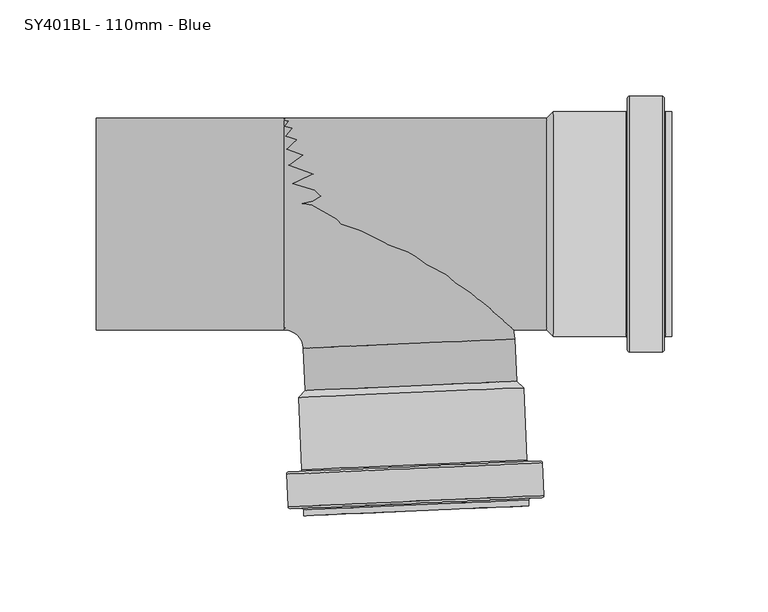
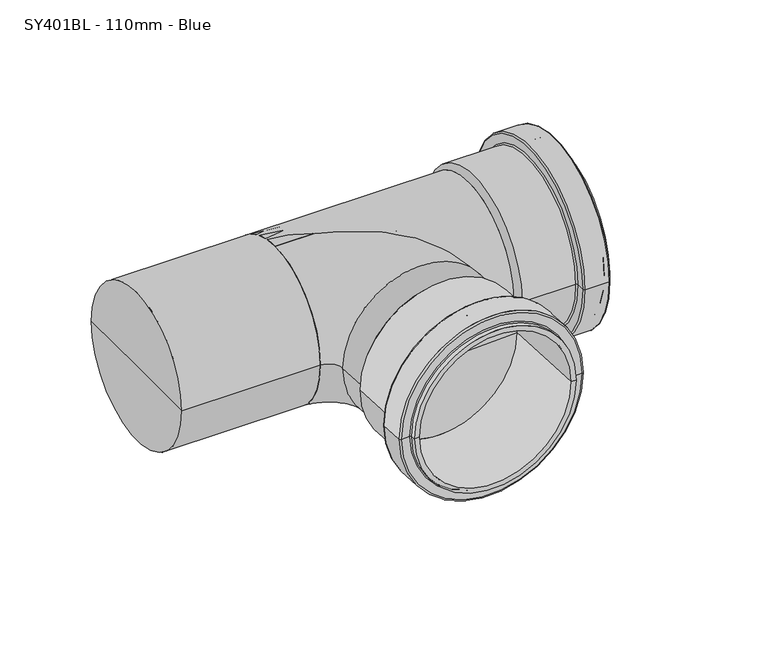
"""IFC4 building model written with IfcOpenShell, lengths in millimetres: pipe fitting geometry, MarleyPlumbingAndDrainage_PipeFitting_dBlueEqualBranch87-5 : SY401BL - 110mm - Blue."""

from ifc_helpers import new_model, si_unit, point, frame, origin, place, context, project, spatial, polyline, circle_curve, ellipse_curve, trimmed, source, transform, mapped, element, save
from ifc_brep_helpers import plane_surface, cylinder_surface, revolved_surface, advanced_brep


def sy401bl_110mm_blue_66424996(model_context):
    return source(origin(), model_context, "Body", "AdvancedBrep", [
        advanced_brep(
        [(-51.9352631, -151.6336693, 0.0), (64.9533788, -146.5302009, 0.0), (64.8228041, -143.5395471, 0.0), (-52.0658379, -148.6430155, 0.0), (-48.4385943, -151.4810014, 0.0), (61.45671, -146.6828688, 0.0), (-51.1211867, -90.0395358, 0.0), (58.7741177, -85.2414032, 0.0), (3.8264655, -87.6404695, 0.0), (-54.6178554, -90.1922036, 0.0), (62.2707865, -85.0887353, 0.0), (58.6214499, -81.7447344, 0.0), (-51.2738545, -86.542867, 0.0), (-52.9810053, -127.6822358, 0.0), (63.9076367, -122.5787675, 0.0), (-53.9118334, -128.6980564, 0.0), (64.9234573, -123.5095956, 0.0), (-59.9505809, -128.9617138, 0.0), (70.9622047, -123.2459382, 0.0), (-60.8880934, -129.9848292, 0.0), (71.9853201, -124.1834507, 0.0), (-60.1476621, -146.9434937, 0.0), (72.7257514, -141.1421152, 0.0), (-59.0591887, -147.9408958, 0.0), (71.7283493, -142.2305886, 0.0), (-53.1152798, -147.6813792, 0.0), (65.7844404, -142.4901053, 0.0), (3.6737977, -84.1438007, 0.0)],
        [
            (0, 1, circle_curve(frame((6.5090579, -149.0819351, 0.0), z_axis=(-0.043619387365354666, 0.999048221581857, 0.0), x_axis=(0.999048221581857, 0.043619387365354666, 0.0)), 58.5)),
            (1, 2),
            (2, 3, circle_curve(frame((6.3784831, -146.0912813, 0.0), z_axis=(0.043619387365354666, -0.999048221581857, 0.0), x_axis=(0.999048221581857, 0.043619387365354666, 0.0)), 58.5)),
            (3, 0),
            (1, 0, circle_curve(frame((6.5090579, -149.0819351, 0.0), z_axis=(-0.043619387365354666, 0.999048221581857, 0.0), x_axis=(0.999048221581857, 0.043619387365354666, 0.0)), 58.5)),
            (3, 2, circle_curve(frame((6.3784831, -146.0912813, 0.0), z_axis=(0.043619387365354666, -0.999048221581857, 0.0), x_axis=(0.999048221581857, 0.043619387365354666, 0.0)), 58.5)),
            (4, 5, circle_curve(frame((6.5090579, -149.0819351, 0.0), z_axis=(-0.043619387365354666, 0.999048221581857, 0.0), x_axis=(0.999048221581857, 0.043619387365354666, 0.0)), 55.0)),
            (5, 1),
            (0, 4),
            (5, 4, circle_curve(frame((6.5090579, -149.0819351, 0.0), z_axis=(-0.043619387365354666, 0.999048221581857, 0.0), x_axis=(0.999048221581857, 0.043619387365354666, 0.0)), 55.0)),
            (6, 7, circle_curve(frame((3.8264655, -87.6404695, 0.0), z_axis=(-0.043619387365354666, 0.999048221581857, 0.0), x_axis=(0.999048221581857, 0.043619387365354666, 0.0)), 55.0)),
            (7, 5),
            (4, 6),
            (7, 6, circle_curve(frame((3.8264655, -87.6404695, 0.0), z_axis=(-0.043619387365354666, 0.999048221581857, 0.0), x_axis=(0.999048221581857, 0.043619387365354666, 0.0)), 55.0)),
            (8, 7),
            (6, 8),
            (9, 10, circle_curve(frame((3.8264655, -87.6404695, 0.0), z_axis=(-0.043619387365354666, 0.999048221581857, 0.0), x_axis=(0.999048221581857, 0.043619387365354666, 0.0)), 58.5)),
            (10, 11),
            (11, 12, circle_curve(frame((3.6737977, -84.1438007, 0.0), z_axis=(0.043619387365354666, -0.999048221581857, 0.0), x_axis=(0.999048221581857, 0.043619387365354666, 0.0)), 55.0)),
            (12, 9),
            (10, 9, circle_curve(frame((3.8264655, -87.6404695, 0.0), z_axis=(-0.043619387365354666, 0.999048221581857, 0.0), x_axis=(0.999048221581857, 0.043619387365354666, 0.0)), 58.5)),
            (12, 11, circle_curve(frame((3.6737977, -84.1438007, 0.0), z_axis=(0.043619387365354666, -0.999048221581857, 0.0), x_axis=(0.999048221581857, 0.043619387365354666, 0.0)), 55.0)),
            (13, 14, circle_curve(frame((5.4633157, -125.1305016, 0.0), z_axis=(-0.043619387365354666, 0.999048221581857, 0.0), x_axis=(0.999048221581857, 0.043619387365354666, 0.0)), 58.5)),
            (14, 10),
            (9, 13),
            (14, 13, circle_curve(frame((5.4633157, -125.1305016, 0.0), z_axis=(-0.043619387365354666, 0.999048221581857, 0.0), x_axis=(0.999048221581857, 0.043619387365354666, 0.0)), 58.5)),
            (15, 16, circle_curve(frame((5.5058119, -126.103826, 0.0), z_axis=(-0.043619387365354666, 0.999048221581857, 0.0), x_axis=(0.999048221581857, 0.043619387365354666, 0.0)), 59.4742516)),
            (16, 14, circle_curve(frame((64.880961, -122.5362712, 0.0), z_axis=(0.0, 0.0, -1.0), x_axis=(-0.04361938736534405, 0.9990482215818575, 0.0)), 0.9742516)),
            (13, 15, circle_curve(frame((-53.9543296, -127.7247321, 0.0), z_axis=(0.0, 0.0, -1.0), x_axis=(-0.04361938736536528, 0.9990482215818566, 0.0)), 0.9742516)),
            (16, 15, circle_curve(frame((5.5058119, -126.103826, 0.0), z_axis=(-0.043619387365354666, 0.999048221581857, 0.0), x_axis=(0.999048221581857, 0.043619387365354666, 0.0)), 59.4742516)),
            (17, 18, circle_curve(frame((5.5058119, -126.103826, 0.0), z_axis=(-0.043619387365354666, 0.999048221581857, 0.0), x_axis=(0.999048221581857, 0.043619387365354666, 0.0)), 65.5187521)),
            (18, 16),
            (15, 17),
            (18, 17, circle_curve(frame((5.5058119, -126.103826, 0.0), z_axis=(-0.043619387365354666, 0.999048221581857, 0.0), x_axis=(0.999048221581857, 0.043619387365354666, 0.0)), 65.5187521)),
            (19, 20, circle_curve(frame((5.5486134, -127.0841399, 0.0), z_axis=(-0.043619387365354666, 0.999048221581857, 0.0), x_axis=(0.999048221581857, 0.043619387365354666, 0.0)), 66.5)),
            (20, 18, circle_curve(frame((71.0050062, -124.2262521, 0.0), z_axis=(0.0, 0.0, 1.0), x_axis=(-0.04361938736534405, 0.9990482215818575, 0.0)), 0.9812479)),
            (17, 19, circle_curve(frame((-59.9077794, -129.9420278, 0.0), z_axis=(0.0, 0.0, 1.0), x_axis=(-0.04361938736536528, 0.9990482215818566, 0.0)), 0.9812479)),
            (20, 19, circle_curve(frame((5.5486134, -127.0841399, 0.0), z_axis=(-0.043619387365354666, 0.999048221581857, 0.0), x_axis=(0.999048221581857, 0.043619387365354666, 0.0)), 66.5)),
            (21, 22, circle_curve(frame((6.2890447, -144.0428045, 0.0), z_axis=(-0.043619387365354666, 0.999048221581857, 0.0), x_axis=(0.999048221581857, 0.043619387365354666, 0.0)), 66.5)),
            (22, 20),
            (19, 21),
            (22, 21, circle_curve(frame((6.2890447, -144.0428045, 0.0), z_axis=(-0.043619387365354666, 0.999048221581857, 0.0), x_axis=(0.999048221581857, 0.043619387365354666, 0.0)), 66.5)),
            (23, 24, circle_curve(frame((6.3345803, -145.0857422, 0.0), z_axis=(-0.043619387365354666, 0.999048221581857, 0.0), x_axis=(0.999048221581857, 0.043619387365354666, 0.0)), 65.4560687)),
            (24, 22, circle_curve(frame((71.6828137, -141.1876509, 0.0), z_axis=(0.0, 0.0, 1.0), x_axis=(-0.04361938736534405, 0.9990482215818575, 0.0)), 1.0439313)),
            (21, 23, circle_curve(frame((-59.1047243, -146.8979581, 0.0), z_axis=(0.0, 0.0, 1.0), x_axis=(-0.04361938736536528, 0.9990482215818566, 0.0)), 1.0439313)),
            (24, 23, circle_curve(frame((6.3345803, -145.0857422, 0.0), z_axis=(-0.043619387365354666, 0.999048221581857, 0.0), x_axis=(0.999048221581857, 0.043619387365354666, 0.0)), 65.4560687)),
            (25, 26, circle_curve(frame((6.3345803, -145.0857422, 0.0), z_axis=(-0.043619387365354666, 0.999048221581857, 0.0), x_axis=(0.999048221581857, 0.043619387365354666, 0.0)), 59.5064971)),
            (26, 24),
            (23, 25),
            (26, 25, circle_curve(frame((6.3345803, -145.0857422, 0.0), z_axis=(-0.043619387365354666, 0.999048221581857, 0.0), x_axis=(0.999048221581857, 0.043619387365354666, 0.0)), 59.5064971)),
            (2, 26, circle_curve(frame((65.8283432, -143.4956444, 0.0), z_axis=(0.0, 0.0, -1.0), x_axis=(-0.04361938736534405, 0.9990482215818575, 0.0)), 1.0064971)),
            (25, 3, circle_curve(frame((-53.071377, -148.6869183, 0.0), z_axis=(0.0, 0.0, -1.0), x_axis=(-0.04361938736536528, 0.9990482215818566, 0.0)), 1.0064971)),
            (11, 27),
            (27, 12),
        ],
        [
            cylinder_surface(frame((8.2538334, -189.043864, 0.0), z_axis=(0.043619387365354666, -0.999048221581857, 0.0), x_axis=(0.999048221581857, 0.043619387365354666, 0.0)), 58.5),
            plane_surface(frame((6.5090579, -149.0819351, 0.0), z_axis=(0.043619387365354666, -0.999048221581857, 0.0), x_axis=(0.999048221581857, 0.043619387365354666, 0.0))),
            revolved_surface(polyline([(61.456710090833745, -146.68286879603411, 0.0), (58.774117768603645, -85.24140318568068, 0.0)]), (8.2538334, -189.043864, 0.0), (0.043619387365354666, -0.999048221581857, 0.0)),
            plane_surface(frame((3.8264655, -87.6404695, 0.0), z_axis=(0.043619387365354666, -0.999048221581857, 0.0), x_axis=(0.999048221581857, 0.043619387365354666, 0.0))),
            revolved_surface(polyline([(58.6214499, -81.7447344, 0.0), (62.2707865, -85.0887353, 0.0)]), (8.2538334, -189.043864, 0.0), (0.043619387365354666, -0.999048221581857, 0.0)),
            revolved_surface(trimmed(ellipse_curve(frame((64.880961, -122.5362712, 0.0), z_axis=(0.0, 0.0, 1.0), x_axis=(-0.04361938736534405, 0.9990482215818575, 0.0)), 0.9742516, 0.9742516), [point((63.9076367, -122.5787675, 0.0))], [point((64.9234573, -123.5095956, 0.0))], True, "CARTESIAN"), (8.2538334, -189.043864, 0.0), (0.043619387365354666, -0.999048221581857, 0.0)),
            plane_surface(frame((5.5058119, -126.103826, 0.0), z_axis=(-0.043619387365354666, 0.999048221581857, 0.0), x_axis=(0.999048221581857, 0.043619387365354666, 0.0))),
            revolved_surface(trimmed(ellipse_curve(frame((71.0050062, -124.2262521, 0.0), z_axis=(0.0, 0.0, -1.0), x_axis=(-0.04361938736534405, 0.9990482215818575, 0.0)), 0.9812479, 0.9812479), [point((70.9622047, -123.2459382, 0.0))], [point((71.9853201, -124.1834507, 0.0))], True, "CARTESIAN"), (8.2538334, -189.043864, 0.0), (0.043619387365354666, -0.999048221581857, 0.0)),
            cylinder_surface(frame((8.2538334, -189.043864, 0.0), z_axis=(0.043619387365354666, -0.999048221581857, 0.0), x_axis=(0.999048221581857, 0.043619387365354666, 0.0)), 66.5),
            revolved_surface(trimmed(ellipse_curve(frame((71.6828137, -141.1876509, 0.0), z_axis=(0.0, 0.0, -1.0), x_axis=(-0.04361938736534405, 0.9990482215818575, 0.0)), 1.0439313, 1.0439313), [point((72.7257514, -141.1421152, 0.0))], [point((71.7283493, -142.2305886, 0.0))], True, "CARTESIAN"), (8.2538334, -189.043864, 0.0), (0.043619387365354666, -0.999048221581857, 0.0)),
            plane_surface(frame((6.3345803, -145.0857422, 0.0), z_axis=(0.043619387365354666, -0.999048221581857, 0.0), x_axis=(0.999048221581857, 0.043619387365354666, 0.0))),
            revolved_surface(trimmed(ellipse_curve(frame((65.8283432, -143.4956444, 0.0), z_axis=(0.0, 0.0, 1.0), x_axis=(-0.04361938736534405, 0.9990482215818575, 0.0)), 1.0064971, 1.0064971), [point((65.7844404, -142.4901053, 0.0))], [point((64.8228041, -143.5395471, 0.0))], True, "CARTESIAN"), (8.2538334, -189.043864, 0.0), (0.043619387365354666, -0.999048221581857, 0.0)),
            plane_surface(frame((3.6737977, -84.1438007, 0.0), z_axis=(-0.043619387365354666, 0.999048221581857, 0.0), x_axis=(0.999048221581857, 0.043619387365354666, 0.0))),
        ],
        [
            (0, [[1, 2, 3, 4]]),
            (0, [[5, -4, 6, -2]]),
            (1, [[7, 8, -1, 9]]),
            (1, [[10, -9, -5, -8]]),
            (2, [[11, 12, -7, 13]]),
            (2, [[14, -13, -10, -12]]),
            (3, [[15, -11, 16]]),
            (3, [[-16, -14, -15]]),
            (4, [[17, 18, 19, 20]]),
            (4, [[21, -20, 22, -18]]),
            (0, [[23, 24, -17, 25]]),
            (0, [[26, -25, -21, -24]]),
            (5, [[27, 28, -23, 29]]),
            (5, [[30, -29, -26, -28]]),
            (6, [[31, 32, -27, 33]]),
            (6, [[34, -33, -30, -32]]),
            (7, [[35, 36, -31, 37]]),
            (7, [[38, -37, -34, -36]]),
            (8, [[39, 40, -35, 41]]),
            (8, [[42, -41, -38, -40]]),
            (9, [[43, 44, -39, 45]]),
            (9, [[46, -45, -42, -44]]),
            (10, [[47, 48, -43, 49]]),
            (10, [[50, -49, -46, -48]]),
            (11, [[-3, 51, -47, 52]]),
            (11, [[-6, -52, -50, -51]]),
            (12, [[-19, 53, 54]]),
            (12, [[-22, -54, -53]]),
        ],
    ),
        advanced_brep(
        [(139.2, 58.5, 0.0), (139.2, -58.5, 0.0), (136.2064971, -58.5, 0.0), (136.2064971, 58.5, 0.0), (139.2, 55.0, 0.0), (139.2, -55.0, 0.0), (77.7, 55.0, 0.0), (77.7, -55.0, 0.0), (77.7, 0.0, 0.0), (77.7, 58.5, 0.0), (77.7, -58.5, 0.0), (74.2, -55.0, 0.0), (74.2, 55.0, 0.0), (115.2257484, 58.5, 0.0), (115.2257484, -58.5, 0.0), (116.2, 59.4742516, 0.0), (116.2, -59.4742516, 0.0), (116.2, 65.5187521, 0.0), (116.2, -65.5187521, 0.0), (117.1812479, 66.5, 0.0), (117.1812479, -66.5, 0.0), (134.1560687, 66.5, 0.0), (134.1560687, -66.5, 0.0), (135.2, 65.4560687, 0.0), (135.2, -65.4560687, 0.0), (135.2, 59.5064971, 0.0), (135.2, -59.5064971, 0.0), (74.2, 0.0, 0.0)],
        [
            (0, 1, circle_curve(frame((139.2, 0.0, 0.0), z_axis=(-1.0, 0.0, 0.0), x_axis=(0.0, -1.0, 0.0)), 58.5)),
            (1, 2),
            (2, 3, circle_curve(frame((136.2064971, 0.0, 0.0), z_axis=(1.0, 0.0, 0.0), x_axis=(0.0, -1.0, 0.0)), 58.5)),
            (3, 0),
            (1, 0, circle_curve(frame((139.2, 0.0, 0.0), z_axis=(-1.0, 0.0, 0.0), x_axis=(0.0, -1.0, 0.0)), 58.5)),
            (3, 2, circle_curve(frame((136.2064971, 0.0, 0.0), z_axis=(1.0, 0.0, 0.0), x_axis=(0.0, -1.0, 0.0)), 58.5)),
            (4, 5, circle_curve(frame((139.2, 0.0, 0.0), z_axis=(-1.0, 0.0, 0.0), x_axis=(0.0, -1.0, 0.0)), 55.0)),
            (5, 1),
            (0, 4),
            (5, 4, circle_curve(frame((139.2, 0.0, 0.0), z_axis=(-1.0, 0.0, 0.0), x_axis=(0.0, -1.0, 0.0)), 55.0)),
            (6, 7, circle_curve(frame((77.7, 0.0, 0.0), z_axis=(-1.0, 0.0, 0.0), x_axis=(0.0, -1.0, 0.0)), 55.0)),
            (7, 5),
            (4, 6),
            (7, 6, circle_curve(frame((77.7, 0.0, 0.0), z_axis=(-1.0, 0.0, 0.0), x_axis=(0.0, -1.0, 0.0)), 55.0)),
            (8, 7),
            (6, 8),
            (9, 10, circle_curve(frame((77.7, 0.0, 0.0), z_axis=(-1.0, 0.0, 0.0), x_axis=(0.0, -1.0, 0.0)), 58.5)),
            (10, 11),
            (11, 12, circle_curve(frame((74.2, 0.0, 0.0), z_axis=(1.0, 0.0, 0.0), x_axis=(0.0, -1.0, 0.0)), 55.0)),
            (12, 9),
            (10, 9, circle_curve(frame((77.7, 0.0, 0.0), z_axis=(-1.0, 0.0, 0.0), x_axis=(0.0, -1.0, 0.0)), 58.5)),
            (12, 11, circle_curve(frame((74.2, 0.0, 0.0), z_axis=(1.0, 0.0, 0.0), x_axis=(0.0, -1.0, 0.0)), 55.0)),
            (13, 14, circle_curve(frame((115.2257484, 0.0, 0.0), z_axis=(-1.0, 0.0, 0.0), x_axis=(0.0, -1.0, 0.0)), 58.5)),
            (14, 10),
            (9, 13),
            (14, 13, circle_curve(frame((115.2257484, 0.0, 0.0), z_axis=(-1.0, 0.0, 0.0), x_axis=(0.0, -1.0, 0.0)), 58.5)),
            (15, 16, circle_curve(frame((116.2, 0.0, 0.0), z_axis=(-1.0, 0.0, 0.0), x_axis=(0.0, -1.0, 0.0)), 59.4742516)),
            (16, 14, circle_curve(frame((115.2257484, -59.4742516, 0.0), z_axis=(0.0, 0.0, 1.0), x_axis=(-1.0, 0.0, 0.0)), 0.9742516)),
            (13, 15, circle_curve(frame((115.2257484, 59.4742516, 0.0), z_axis=(0.0, 0.0, 1.0), x_axis=(-1.0, 0.0, 0.0)), 0.9742516)),
            (16, 15, circle_curve(frame((116.2, 0.0, 0.0), z_axis=(-1.0, 0.0, 0.0), x_axis=(0.0, -1.0, 0.0)), 59.4742516)),
            (17, 18, circle_curve(frame((116.2, 0.0, 0.0), z_axis=(-1.0, 0.0, 0.0), x_axis=(0.0, -1.0, 0.0)), 65.5187521)),
            (18, 16),
            (15, 17),
            (18, 17, circle_curve(frame((116.2, 0.0, 0.0), z_axis=(-1.0, 0.0, 0.0), x_axis=(0.0, -1.0, 0.0)), 65.5187521)),
            (19, 20, circle_curve(frame((117.1812479, 0.0, 0.0), z_axis=(-1.0, 0.0, 0.0), x_axis=(0.0, -1.0, 0.0)), 66.5)),
            (20, 18, circle_curve(frame((117.1812479, -65.5187521, 0.0), z_axis=(0.0, 0.0, -1.0), x_axis=(-1.0, 0.0, 0.0)), 0.9812479)),
            (17, 19, circle_curve(frame((117.1812479, 65.5187521, 0.0), z_axis=(0.0, 0.0, -1.0), x_axis=(-1.0, 0.0, 0.0)), 0.9812479)),
            (20, 19, circle_curve(frame((117.1812479, 0.0, 0.0), z_axis=(-1.0, 0.0, 0.0), x_axis=(0.0, -1.0, 0.0)), 66.5)),
            (21, 22, circle_curve(frame((134.1560687, 0.0, 0.0), z_axis=(-1.0, 0.0, 0.0), x_axis=(0.0, -1.0, 0.0)), 66.5)),
            (22, 20),
            (19, 21),
            (22, 21, circle_curve(frame((134.1560687, 0.0, 0.0), z_axis=(-1.0, 0.0, 0.0), x_axis=(0.0, -1.0, 0.0)), 66.5)),
            (23, 24, circle_curve(frame((135.2, 0.0, 0.0), z_axis=(-1.0, 0.0, 0.0), x_axis=(0.0, -1.0, 0.0)), 65.4560687)),
            (24, 22, circle_curve(frame((134.1560687, -65.4560687, 0.0), z_axis=(0.0, 0.0, -1.0), x_axis=(-1.0, 0.0, 0.0)), 1.0439313)),
            (21, 23, circle_curve(frame((134.1560687, 65.4560687, 0.0), z_axis=(0.0, 0.0, -1.0), x_axis=(-1.0, 0.0, 0.0)), 1.0439313)),
            (24, 23, circle_curve(frame((135.2, 0.0, 0.0), z_axis=(-1.0, 0.0, 0.0), x_axis=(0.0, -1.0, 0.0)), 65.4560687)),
            (25, 26, circle_curve(frame((135.2, 0.0, 0.0), z_axis=(-1.0, 0.0, 0.0), x_axis=(0.0, -1.0, 0.0)), 59.5064971)),
            (26, 24),
            (23, 25),
            (26, 25, circle_curve(frame((135.2, 0.0, 0.0), z_axis=(-1.0, 0.0, 0.0), x_axis=(0.0, -1.0, 0.0)), 59.5064971)),
            (2, 26, circle_curve(frame((136.2064971, -59.5064971, 0.0), z_axis=(0.0, 0.0, 1.0), x_axis=(-1.0, 0.0, 0.0)), 1.0064971)),
            (25, 3, circle_curve(frame((136.2064971, 59.5064971, 0.0), z_axis=(0.0, 0.0, 1.0), x_axis=(-1.0, 0.0, 0.0)), 1.0064971)),
            (11, 27),
            (27, 12),
        ],
        [
            cylinder_surface(frame((179.2, 0.0, 0.0), z_axis=(1.0, 0.0, 0.0), x_axis=(0.0, -1.0, 0.0)), 58.5),
            plane_surface(frame((139.2, 0.0, 0.0), z_axis=(1.0, 0.0, 0.0), x_axis=(0.0, -1.0, 0.0))),
            revolved_surface(polyline([(139.2, -55.0, 0.0), (77.7, -55.0, 0.0)]), (179.2, 0.0, 0.0), (1.0, 0.0, 0.0)),
            plane_surface(frame((77.7, 0.0, 0.0), z_axis=(1.0, 0.0, 0.0), x_axis=(0.0, -1.0, 0.0))),
            revolved_surface(polyline([(74.2, -55.0, 0.0), (77.7, -58.5, 0.0)]), (179.2, 0.0, 0.0), (1.0, 0.0, 0.0)),
            revolved_surface(trimmed(ellipse_curve(frame((115.2257484, -59.4742516, 0.0), z_axis=(0.0, 0.0, -1.0), x_axis=(-1.0, 0.0, 0.0)), 0.9742516, 0.9742516), [point((115.2257484, -58.5, 0.0))], [point((116.2, -59.4742516, 0.0))], True, "CARTESIAN"), (179.2, 0.0, 0.0), (1.0, 0.0, 0.0)),
            plane_surface(frame((116.2, 0.0, 0.0), z_axis=(-1.0, 0.0, 0.0), x_axis=(0.0, -1.0, 0.0))),
            revolved_surface(trimmed(ellipse_curve(frame((117.1812479, -65.5187521, 0.0), z_axis=(0.0, 0.0, 1.0), x_axis=(-1.0, 0.0, 0.0)), 0.9812479, 0.9812479), [point((116.2, -65.5187521, 0.0))], [point((117.1812479, -66.5, 0.0))], True, "CARTESIAN"), (179.2, 0.0, 0.0), (1.0, 0.0, 0.0)),
            cylinder_surface(frame((179.2, 0.0, 0.0), z_axis=(1.0, 0.0, 0.0), x_axis=(0.0, -1.0, 0.0)), 66.5),
            revolved_surface(trimmed(ellipse_curve(frame((134.1560687, -65.4560687, 0.0), z_axis=(0.0, 0.0, 1.0), x_axis=(-1.0, 0.0, 0.0)), 1.0439313, 1.0439313), [point((134.1560687, -66.5, 0.0))], [point((135.2, -65.4560687, 0.0))], True, "CARTESIAN"), (179.2, 0.0, 0.0), (1.0, 0.0, 0.0)),
            plane_surface(frame((135.2, 0.0, 0.0), z_axis=(1.0, 0.0, 0.0), x_axis=(0.0, -1.0, 0.0))),
            revolved_surface(trimmed(ellipse_curve(frame((136.2064971, -59.5064971, 0.0), z_axis=(0.0, 0.0, -1.0), x_axis=(-1.0, 0.0, 0.0)), 1.0064971, 1.0064971), [point((135.2, -59.5064971, 0.0))], [point((136.2064971, -58.5, 0.0))], True, "CARTESIAN"), (179.2, 0.0, 0.0), (1.0, 0.0, 0.0)),
            plane_surface(frame((74.2, 0.0, 0.0), z_axis=(-1.0, 0.0, 0.0), x_axis=(0.0, -1.0, 0.0))),
        ],
        [
            (0, [[1, 2, 3, 4]]),
            (0, [[5, -4, 6, -2]]),
            (1, [[7, 8, -1, 9]]),
            (1, [[10, -9, -5, -8]]),
            (2, [[11, 12, -7, 13]]),
            (2, [[14, -13, -10, -12]]),
            (3, [[15, -11, 16]]),
            (3, [[-16, -14, -15]]),
            (4, [[17, 18, 19, 20]]),
            (4, [[21, -20, 22, -18]]),
            (0, [[23, 24, -17, 25]]),
            (0, [[26, -25, -21, -24]]),
            (5, [[27, 28, -23, 29]]),
            (5, [[30, -29, -26, -28]]),
            (6, [[31, 32, -27, 33]]),
            (6, [[34, -33, -30, -32]]),
            (7, [[35, 36, -31, 37]]),
            (7, [[38, -37, -34, -36]]),
            (8, [[39, 40, -35, 41]]),
            (8, [[42, -41, -38, -40]]),
            (9, [[43, 44, -39, 45]]),
            (9, [[46, -45, -42, -44]]),
            (10, [[47, 48, -43, 49]]),
            (10, [[50, -49, -46, -48]]),
            (11, [[-3, 51, -47, 52]]),
            (11, [[-6, -52, -50, -51]]),
            (12, [[-19, 53, 54]]),
            (12, [[-22, -54, -53]]),
        ],
    ),
        advanced_brep(
        [(-62.2239632, -55.0, 0.0), (-62.2239632, 55.0, 0.0), (57.6618233, -59.7656735, 0.0), (-52.233481, -64.5638061, 0.0), (-51.2738545, -86.542867, 0.0), (58.6214499, -81.7447344, 0.0)],
        [
            (0, 1, circle_curve(frame((-62.2239632, 0.0, 0.0), z_axis=(-1.0, 0.0, 0.0), x_axis=(0.0, 1.0, 0.0)), 55.0)),
            (1, 0, circle_curve(frame((-62.2239632, 0.0, 0.0), z_axis=(-1.0, 0.0, 0.0), x_axis=(0.0, 1.0, 0.0)), 55.0)),
            (2, 1, circle_curve(frame((-62.2239632, -65.0, 0.0), z_axis=(0.0, 0.0, 1.0), x_axis=(0.0, 1.0, 0.0)), 120.0)),
            (0, 3, circle_curve(frame((-62.2239632, -65.0, 0.0), z_axis=(0.0, 0.0, -1.0), x_axis=(0.0, 1.0, 0.0)), 10.0)),
            (3, 2, circle_curve(frame((2.7141712, -62.1647398, 0.0), z_axis=(-0.04361938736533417, 0.9990482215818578, 0.0), x_axis=(0.9990482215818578, 0.04361938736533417, 0.0)), 55.0)),
            (2, 3, circle_curve(frame((2.7141712, -62.1647398, 0.0), z_axis=(-0.04361938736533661, 0.9990482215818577, 0.0), x_axis=(0.9990482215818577, 0.04361938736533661, 0.0)), 55.0)),
            (4, 5, circle_curve(frame((3.6737977, -84.1438007, 0.0), z_axis=(0.04361938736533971, -0.9990482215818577, 0.0), x_axis=(0.9990482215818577, 0.04361938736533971, 0.0)), 55.0)),
            (5, 4, circle_curve(frame((3.6737977, -84.1438007, 0.0), z_axis=(0.04361938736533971, -0.9990482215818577, 0.0), x_axis=(0.9990482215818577, 0.04361938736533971, 0.0)), 55.0)),
            (3, 4),
            (5, 2),
        ],
        [
            plane_surface(frame((-62.2239632, 0.0, 0.0), z_axis=(-1.0, 0.0, 0.0), x_axis=(0.0, 0.0, 1.0))),
            revolved_surface(trimmed(ellipse_curve(frame((-62.2239632, 0.0, 0.0), z_axis=(-1.0, 0.0, 0.0), x_axis=(0.0, 1.0, 0.0)), 55.0, 55.0), [point((-62.2239632, -55.0, 0.0))], [point((-62.2239632, 55.0, 0.0))], True, "CARTESIAN"), (-62.2239632, -65.0, 0.0), (0.0, 0.0, -1.0)),
            revolved_surface(trimmed(ellipse_curve(frame((-62.2239632, 0.0, 0.0), z_axis=(-1.0, 0.0, 0.0), x_axis=(0.0, 1.0, 0.0)), 55.0, 55.0), [point((-62.2239632, 55.0, 0.0))], [point((-62.2239632, -55.0, 0.0))], True, "CARTESIAN"), (-62.2239632, -65.0, 0.0), (0.0, 0.0, -1.0)),
            plane_surface(frame((3.6737977, -84.1438007, 0.0), z_axis=(0.043619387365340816, -0.9990482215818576, 0.0), x_axis=(0.0, 0.0, 1.0))),
            cylinder_surface(frame((2.7141712, -62.1647398, 0.0), z_axis=(-0.04361938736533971, 0.9990482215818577, 0.0), x_axis=(0.9990482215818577, 0.04361938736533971, 0.0)), 55.0),
        ],
        [
            (0, [[1, 2]]),
            (1, [[3, -1, 4, 5]]),
            (2, [[-4, -2, -3, 6]]),
            (3, [[7, 8]]),
            (4, [[-5, 9, -8, 10]]),
            (4, [[-6, -10, -7, -9]]),
        ],
    ),
        advanced_brep(
        [(-159.8, -55.0, 0.0), (-159.8, 55.0, 0.0), (74.2, 55.0, 0.0), (74.2, -55.0, 0.0), (-159.8, 0.0, 0.0), (74.2, 0.0, 0.0)],
        [
            (0, 1, circle_curve(frame((-159.8, 0.0, 0.0), z_axis=(1.0, 0.0, 0.0), x_axis=(0.0, 1.0, 0.0)), 55.0)),
            (1, 2),
            (2, 3, circle_curve(frame((74.2, 0.0, 0.0), z_axis=(-1.0, 0.0, 0.0), x_axis=(0.0, 1.0, 0.0)), 55.0)),
            (3, 0),
            (1, 0, circle_curve(frame((-159.8, 0.0, 0.0), z_axis=(1.0, 0.0, 0.0), x_axis=(0.0, 1.0, 0.0)), 55.0)),
            (3, 2, circle_curve(frame((74.2, 0.0, 0.0), z_axis=(-1.0, 0.0, 0.0), x_axis=(0.0, 1.0, 0.0)), 55.0)),
            (4, 1),
            (0, 4),
            (2, 5),
            (5, 3),
        ],
        [
            cylinder_surface(frame((99.2, 0.0, 0.0), z_axis=(-1.0, 0.0, 0.0), x_axis=(0.0, 1.0, 0.0)), 55.0),
            plane_surface(frame((-159.8, 0.0, 0.0), z_axis=(-1.0, 0.0, 0.0), x_axis=(0.0, 1.0, 0.0))),
            plane_surface(frame((74.2, 0.0, 0.0), z_axis=(1.0, 0.0, 0.0), x_axis=(0.0, 1.0, 0.0))),
        ],
        [
            (0, [[1, 2, 3, 4]]),
            (0, [[5, -4, 6, -2]]),
            (1, [[7, -1, 8]]),
            (1, [[-8, -5, -7]]),
            (2, [[-3, 9, 10]]),
            (2, [[-6, -10, -9]]),
        ],
    ),
    ])


if __name__ == "__main__":
    model = new_model("IFC4")
    model_context = context("Model", 3, world=origin())
    ifc_project = project(units=[si_unit("LENGTHUNIT", "METRE", prefix="MILLI")], contexts=[model_context])
    site = spatial("IfcSite", under=ifc_project)
    building = spatial("IfcBuilding", under=site)
    placement = place(None, origin())
    sy401bl_110mm_blue_shape = sy401bl_110mm_blue_66424996(model_context)
    element("IfcPipeFitting", 1, ObjectType="MarleyPlumbingAndDrainage_PipeFitting_dBlueEqualBranch87-5 : SY401BL - 110mm - Blue", at=placement, inside=building, context=model_context, shape_type="MappedRepresentation", body=[
        mapped(sy401bl_110mm_blue_shape, transform((0.0, 0.0, 0.0), x_axis=(1.0, 0.0, 0.0), y_axis=(0.0, 1.0, 0.0), z_axis=(0.0, 0.0, 1.0))),
    ])
    save(model, "model.ifc")
